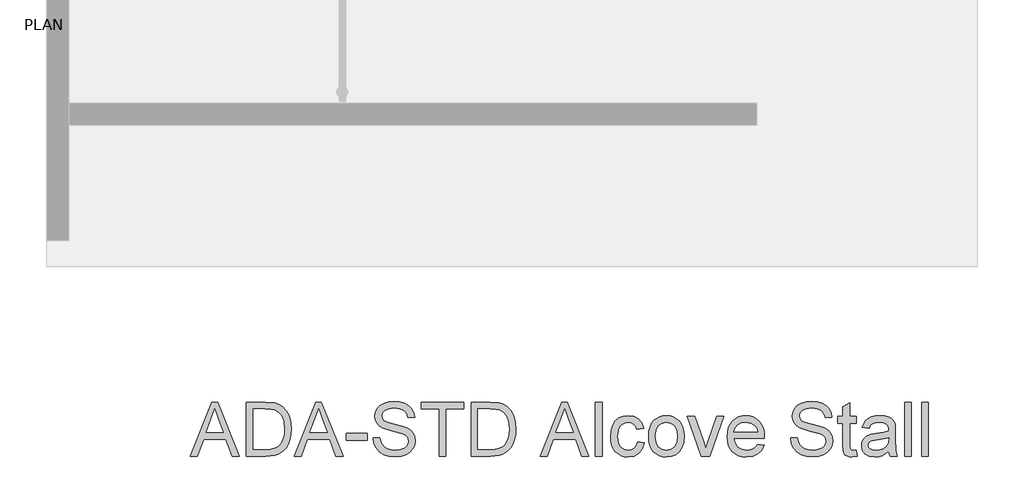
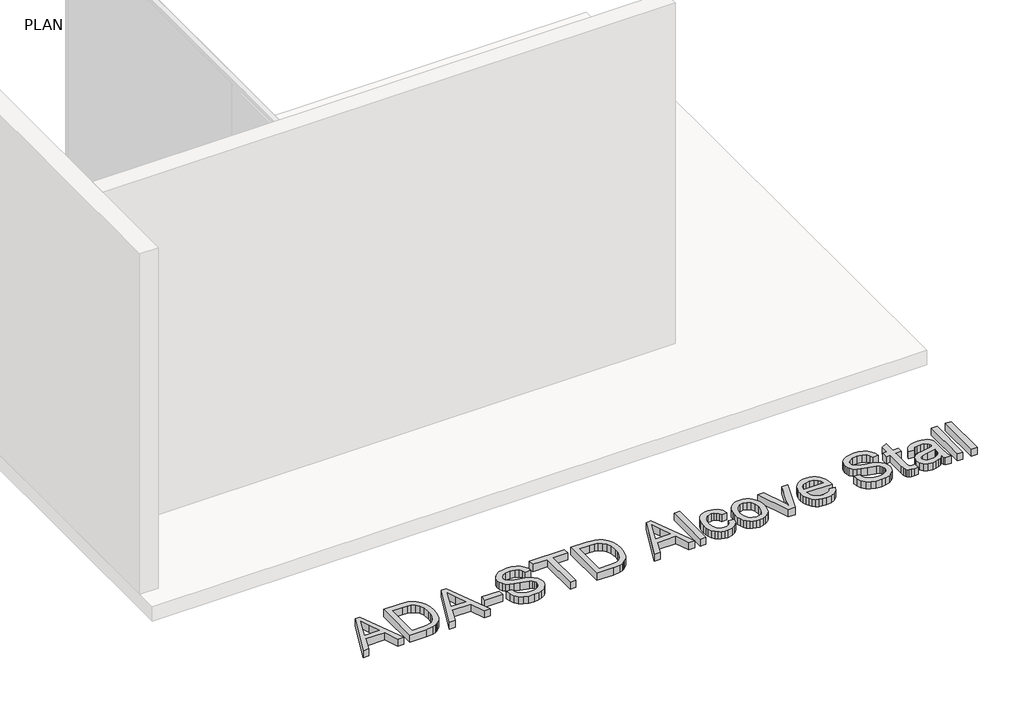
# One storey, part 17 of 21: 1 proxy.
"""IFC4 building model written with IfcOpenShell, lengths in millimetres."""

import ifcopenshell
import ifcopenshell.guid

model = None  # the IFC model being written
_history = None  # IfcOwnerHistory: only IFC2X3 demands one
_inside = {}  # id of a spatial element -> (the spatial element, [elements in it])
_under = {}  # id of a project, library or spatial element -> (it, [spatial elements below it])
_declared = {}  # id of a project -> (the project, [libraries it declares])
_typed = {}  # id of a type object -> (the type object, [elements of that type])
_made_of = {}  # id of a material, layer set ... -> (it, [elements and type objects made of it])


def new_model(schema):
    """Start an empty IFC model of exactly this schema.

    Asked for "IFC4X3", IfcOpenShell would pick the latest addendum, in which some entities
    have other attributes; the version numbers below select the first issue.
    IFC2X3 requires an IfcOwnerHistory on every rooted entity: one is made here for all.
    """
    global model, _history
    if schema == "IFC4X3":
        model = ifcopenshell.file(schema_version=(4, 3, 0, 0))
    else:
        model = ifcopenshell.file(schema=schema)
    _inside.clear()
    _under.clear()
    _declared.clear()
    _typed.clear()
    _made_of.clear()
    _history = None
    if model.schema == "IFC2X3":
        org = make("IfcOrganization", Name="unknown")
        user = make(
            "IfcPersonAndOrganization",
            ThePerson=make("IfcPerson", FamilyName="unknown"),
            TheOrganization=org,
        )
        app = make(
            "IfcApplication",
            ApplicationDeveloper=org,
            Version="unknown",
            ApplicationFullName="unknown",
            ApplicationIdentifier="unknown",
        )
        _history = make(
            "IfcOwnerHistory",
            OwningUser=user,
            OwningApplication=app,
            ChangeAction="ADDED",
            CreationDate=0,
        )
    return model


def make(cls, **values):
    """One entity of the class cls with the attributes given. An attribute that is None is left unset."""
    return model.create_entity(
        cls, **{name: value for name, value in values.items() if value is not None}
    )


def rooted(cls, **values):
    """An entity with a GlobalId (a new one), such as an element, a storey or a relation."""
    return make(cls, GlobalId=ifcopenshell.guid.new(), OwnerHistory=_history, **values)


def si_unit(unit_type, name, prefix=None):
    """IfcSIUnit, for example si_unit("LENGTHUNIT", "METRE", prefix="MILLI")."""
    return make("IfcSIUnit", UnitType=unit_type, Prefix=prefix, Name=name)


def assignment(units):
    """IfcUnitAssignment: the units of a project."""
    return None if units is None else make("IfcUnitAssignment", Units=units)


def point(xyz):
    """IfcCartesianPoint."""
    return None if xyz is None else make("IfcCartesianPoint", Coordinates=xyz)


def direction(xyz):
    """IfcDirection."""
    return None if xyz is None else make("IfcDirection", DirectionRatios=xyz)


def frame(location, z_axis=None, x_axis=None):
    """IfcAxis2Placement3D, a coordinate frame: its origin and axes. An axis left out is left unset."""
    return make(
        "IfcAxis2Placement3D",
        Location=point(location),
        Axis=direction(z_axis),
        RefDirection=direction(x_axis),
    )


def origin():
    """The frame at (0, 0, 0) with its axes left unset."""
    return frame((0.0, 0.0, 0.0))


def origin_with_axes():
    """The frame at (0, 0, 0) with the z axis (0, 0, 1) and the x axis (1, 0, 0) written out."""
    return frame((0.0, 0.0, 0.0), z_axis=(0.0, 0.0, 1.0), x_axis=(1.0, 0.0, 0.0))


def place(relative_to, where):
    """IfcLocalPlacement: puts the frame where relative to a parent placement (None: the world)."""
    return make(
        "IfcLocalPlacement", PlacementRelTo=relative_to, RelativePlacement=where
    )


def context(
    kind, dimensions, precision=None, world=None, true_north=None, identifier=None
):
    """IfcGeometricRepresentationContext, for example the 3D "Model" context."""
    return make(
        "IfcGeometricRepresentationContext",
        ContextIdentifier=identifier,
        ContextType=kind,
        CoordinateSpaceDimension=dimensions,
        Precision=precision,
        WorldCoordinateSystem=world,
        TrueNorth=true_north,
    )


def project(units=None, contexts=None):
    """IfcProject with its units and contexts."""
    return rooted(
        "IfcProject",
        Name="project",
        RepresentationContexts=contexts,
        UnitsInContext=assignment(units),
    )


def spatial(cls, under=None, at=None, **own):
    """A site, building, storey or space (cls), placed at a placement, below another one or the project."""
    s = rooted(cls, ObjectPlacement=at, **own)
    if under is not None:
        _under.setdefault(under.id(), (under, []))[1].append(s)
    return s


def polyline(points):
    """IfcPolyline through the points."""
    return make("IfcPolyline", Points=[point(p) for p in points])


def outline(outer, holes=None, kind="AREA"):
    """IfcArbitraryClosedProfileDef: a profile drawn as a closed curve; with holes, ...WithVoids."""
    if holes is None:
        return make("IfcArbitraryClosedProfileDef", ProfileType=kind, OuterCurve=outer)
    return make(
        "IfcArbitraryProfileDefWithVoids",
        ProfileType=kind,
        OuterCurve=outer,
        InnerCurves=holes,
    )


def extrude(swept, where, along, depth):
    """IfcExtrudedAreaSolid: the profile swept, set in the frame where, extruded along a direction by depth."""
    return make(
        "IfcExtrudedAreaSolid",
        SweptArea=swept,
        Position=where,
        ExtrudedDirection=direction(along),
        Depth=depth,
    )


def shape(context_of_items, identifier, shape_type, items):
    """IfcShapeRepresentation: the items that make up one representation, for example the "Body"."""
    return make(
        "IfcShapeRepresentation",
        ContextOfItems=context_of_items,
        RepresentationIdentifier=identifier,
        RepresentationType=shape_type,
        Items=items,
    )


def made_of(thing, what):
    """Note that an element or type object is made of a material, layer set ...; save() writes the relation."""
    if what is not None:
        _made_of.setdefault(what.id(), (what, []))[1].append(thing)
    return thing


def element(
    cls,
    number,
    at=None,
    inside=None,
    cuts=None,
    type_object=None,
    material=None,
    context=None,
    identifier="Body",
    shape_type=None,
    held_by="IfcProductDefinitionShape",
    body=None,
    shapes=None,
    **own,
):
    """One element of the class cls, such as IfcWall. Its Tag is "e" and its number.

    at: its placement. inside: the storey or other place that contains it. cuts: it is an
    opening in that element (IfcRelVoidsElement). A single representation is given by context,
    identifier, shape_type and body (its items); several are given by shapes. held_by: the class
    of the entity that holds the representations. save() writes the other relations.
    """
    e = rooted(cls, Tag="e%d" % number, ObjectPlacement=at, **own)
    if body is not None:
        shapes = [shape(context, identifier, shape_type, body)]
    if shapes is not None:
        e.Representation = make(held_by, Representations=shapes)
    if inside is not None:
        _inside.setdefault(inside.id(), (inside, []))[1].append(e)
    if cuts is not None:
        rooted(
            "IfcRelVoidsElement", RelatingBuildingElement=cuts, RelatedOpeningElement=e
        )
    if type_object is not None:
        _typed.setdefault(type_object.id(), (type_object, []))[1].append(e)
    return made_of(e, material)


def aggregate(whole, parts):
    """IfcRelAggregates: a whole, such as a stair, and the parts it consists of."""
    return rooted("IfcRelAggregates", RelatingObject=whole, RelatedObjects=parts)


def save(model, path):
    """Write the relations noted so far, then the file.

    IfcRelAggregates (storeys below a building ...), IfcRelContainedInSpatialStructure (elements
    in a storey), IfcRelDefinesByType, IfcRelAssociatesMaterial and IfcRelDeclares: one each for
    every whole, place, type object, material and project.
    """
    for whole, parts in _under.values():
        aggregate(whole, parts)
    for where, things in _inside.values():
        rooted(
            "IfcRelContainedInSpatialStructure",
            RelatedElements=things,
            RelatingStructure=where,
        )
    for kind, things in _typed.values():
        rooted("IfcRelDefinesByType", RelatedObjects=things, RelatingType=kind)
    for what, things in _made_of.values():
        rooted("IfcRelAssociatesMaterial", RelatedObjects=things, RelatingMaterial=what)
    for by, libraries in _declared.values():
        rooted("IfcRelDeclares", RelatingContext=by, RelatedDefinitions=libraries)
    model.write(path)


model = new_model("IFC4")

# Units and contexts
model_context = context("Model", 3, world=origin())
ifc_project = project(units=[si_unit("LENGTHUNIT", "METRE", prefix="MILLI")], contexts=[model_context])

# Site, building, storey
site = spatial("IfcSite", under=ifc_project)
building = spatial("IfcBuilding", under=site)
storey = spatial("IfcBuildingStorey", under=building, Name="PLAN", Elevation=0.0)

# Proxy
placement = place(None, origin())
element("IfcBuildingElementProxy", 1, Name="12\" Arial", ObjectType="12\" Arial", at=placement, inside=storey, context=model_context, shape_type="SweptSolid", body=[
    extrude(outline(polyline([(-22281.409143, 28816.1074995), (-22159.8351199, 29120.6745936), (-22127.4153804, 29120.6745936), (-22005.8413572, 28816.1074995), (-22046.0686028, 28816.1074995), (-22080.9421299, 28911.2847164), (-22206.3827275, 28911.2847164), (-22241.1818974, 28816.1074995), (-22281.409143, 28816.1074995)]), holes=[polyline([(-22192.4035738, 28949.3556032), (-22094.8469265, 28949.3556032), (-22122.2847335, 29024.2333043), (-22143.6252501, 29082.6037068), (-22162.5863363, 29030.7767379), (-22192.4035738, 28949.3556032)])]), origin_with_axes(), (0.0, 0.0, 1.0), 50.8),
    extrude(outline(polyline([(-21965.1679684, 28816.1074995), (-21965.1679684, 29120.6745936), (-21860.1012439, 29120.6745936), (-21805.7461301, 29116.2875187), (-21781.4685041, 29107.8293871), (-21760.9830953, 29094.5008589), (-21739.9214182, 29071.3014123), (-21724.919853, 29042.4508184), (-21715.941221, 29008.5067563), (-21712.9483437, 28970.0269049), (-21714.9745774, 28937.3376206), (-21721.0532785, 28908.5706786), (-21730.31075, 28884.0792756), (-21741.8732947, 28864.2166084), (-21755.1832337, 28848.5365337), (-21769.6828878, 28836.5929083), (-21786.3296061, 28827.7351068), (-21806.0807375, 28821.3125035), (-21855.0449542, 28816.1074995), (-21965.1679684, 28816.1074995)]), holes=[polyline([(-21927.0970817, 28854.1783863), (-21859.7294579, 28854.1783863), (-21831.8640969, 28855.5539945), (-21810.7280626, 28859.6808191), (-21794.778443, 28866.3171993), (-21782.4723263, 28875.2214741), (-21769.2460393, 28891.7008887), (-21759.3100583, 28913.0321106), (-21753.0919374, 28939.3080864), (-21751.0192304, 28970.6217626), (-21755.0809925, 29012.1130805), (-21767.2662788, 29042.7482472), (-21785.270016, 29063.791335), (-21806.787131, 29076.5064164), (-21828.6853266, 29081.0793842), (-21860.7704587, 29082.6037068), (-21927.0970817, 29082.6037068), (-21927.0970817, 28854.1783863)])]), origin_with_axes(), (0.0, 0.0, 1.0), 50.8),
    extrude(outline(polyline([(-21696.0692591, 28816.1074995), (-21574.495236, 29120.6745936), (-21542.0754965, 29120.6745936), (-21420.5014733, 28816.1074995), (-21460.7287189, 28816.1074995), (-21495.602246, 28911.2847164), (-21621.0428436, 28911.2847164), (-21655.8420135, 28816.1074995), (-21696.0692591, 28816.1074995)]), holes=[polyline([(-21607.0636899, 28949.3556032), (-21509.5070426, 28949.3556032), (-21536.9448496, 29024.2333043), (-21558.2853662, 29082.6037068), (-21577.2464524, 29030.7767379), (-21607.0636899, 28949.3556032)])]), origin_with_axes(), (0.0, 0.0, 1.0), 50.8),
    extrude(outline(polyline([(-21403.6223888, 28906.5258556), (-21403.6223888, 28944.5967423), (-21284.6508676, 28944.5967423), (-21284.6508676, 28906.5258556), (-21403.6223888, 28906.5258556)])), origin_with_axes(), (0.0, 0.0, 1.0), 50.8),
    extrude(outline(polyline([(-21251.3388417, 28920.8024381), (-21213.267955, 28920.8024381), (-21208.8994694, 28899.6756984), (-21200.9990169, 28882.6943727), (-21188.6743108, 28869.2171301), (-21171.033065, 28858.6026397), (-21149.4694768, 28851.715304), (-21125.3777437, 28849.4195254), (-21104.1673522, 28851.157625), (-21085.5966414, 28856.3719237), (-21070.5486029, 28864.625573), (-21059.9062285, 28875.4817243), (-21053.5765718, 28887.94585), (-21051.4666862, 28901.0234227), (-21053.0467768, 28913.766388), (-21057.7870483, 28924.7805483), (-21067.4163058, 28934.1774396), (-21083.6633541, 28942.0685975), (-21139.0966473, 28956.6054302), (-21175.4852024, 28966.2253931), (-21198.7683008, 28975.3806234), (-21217.7200924, 28988.1886512), (-21231.1508617, 29003.7107169), (-21239.1535555, 29021.6122129), (-21241.82112, 29041.558532), (-21238.5215193, 29063.8563976), (-21228.6227169, 29084.6485298), (-21212.3849632, 29102.2711864), (-21190.0685083, 29115.0606249), (-21163.2813268, 29122.840247), (-21133.631393, 29125.4334544), (-21101.5090823, 29122.7194166), (-21073.4020604, 29114.5773031), (-21050.3141496, 29101.1744177), (-21033.2491721, 29082.678064), (-21022.4487887, 29060.2407787), (-21018.1546603, 29035.0150984), (-21056.2255471, 29035.0150984), (-21063.215124, 29057.7312232), (-21077.7891353, 29074.1269859), (-21100.561028, 29084.0536722), (-21132.144249, 29087.3625677), (-21164.471042, 29084.0908508), (-21186.6480771, 29074.2757003), (-21199.4746942, 29059.8318141), (-21203.7502333, 29042.67389), (-21200.7201773, 29028.0441108), (-21191.6300096, 29016.2770838), (-21170.1407786, 29005.7555399), (-21129.4673898, 28995.0109244), (-21087.49275, 28984.8053986), (-21062.0997659, 28975.9011238), (-21040.396758, 28962.0892738), (-21025.255773, 28945.0428855), (-21016.3607929, 28924.947852), (-21013.3957995, 28901.9900663), (-21016.8069361, 28878.5210748), (-21027.0403458, 28856.4462809), (-21043.6777695, 28837.4480161), (-21066.3009478, 28823.2086122), (-21093.5063886, 28814.313632), (-21123.8905997, 28811.3486387), (-21161.1900305, 28814.5459983), (-21191.8902598, 28824.1380772), (-21216.3444841, 28840.1620539), (-21234.9059004, 28862.6551071), (-21246.8216418, 28890.0557356), (-21251.3388417, 28920.8024381)])), origin_with_axes(), (0.0, 0.0, 1.0), 50.8),
    extrude(outline(polyline([(-20880.1476958, 28816.1074995), (-20880.1476958, 29082.6037068), (-20980.0837736, 29082.6037068), (-20980.0837736, 29120.6745936), (-20742.1407313, 29120.6745936), (-20742.1407313, 29082.6037068), (-20842.0768091, 29082.6037068), (-20842.0768091, 28816.1074995), (-20880.1476958, 28816.1074995)])), origin_with_axes(), (0.0, 0.0, 1.0), 50.8),
    extrude(outline(polyline([(-20699.3109837, 28816.1074995), (-20699.3109837, 29120.6745936), (-20594.2442591, 29120.6745936), (-20539.8891454, 29116.2875187), (-20515.6115194, 29107.8293871), (-20495.1261106, 29094.5008589), (-20474.0644335, 29071.3014123), (-20459.0628683, 29042.4508184), (-20450.0842363, 29008.5067563), (-20447.091359, 28970.0269049), (-20449.1175927, 28937.3376206), (-20455.1962938, 28908.5706786), (-20464.4537653, 28884.0792756), (-20476.01631, 28864.2166084), (-20489.3262489, 28848.5365337), (-20503.8259031, 28836.5929083), (-20520.4726214, 28827.7351068), (-20540.2237528, 28821.3125035), (-20589.1879695, 28816.1074995), (-20699.3109837, 28816.1074995)]), holes=[polyline([(-20661.240097, 28854.1783863), (-20593.8724731, 28854.1783863), (-20566.0071122, 28855.5539945), (-20544.8710779, 28859.6808191), (-20528.9214583, 28866.3171993), (-20516.6153416, 28875.2214741), (-20503.3890545, 28891.7008887), (-20493.4530736, 28913.0321106), (-20487.2349527, 28939.3080864), (-20485.1622457, 28970.6217626), (-20489.2240078, 29012.1130805), (-20501.4092941, 29042.7482472), (-20519.4130313, 29063.791335), (-20540.9301462, 29076.5064164), (-20562.8283418, 29081.0793842), (-20594.9134739, 29082.6037068), (-20661.240097, 29082.6037068), (-20661.240097, 28854.1783863)])]), origin_with_axes(), (0.0, 0.0, 1.0), 50.8),
    extrude(outline(polyline([(-20311.2407533, 28816.1074995), (-20189.6667301, 29120.6745936), (-20157.2469906, 29120.6745936), (-20035.6729675, 28816.1074995), (-20075.9002131, 28816.1074995), (-20110.7737402, 28911.2847164), (-20236.2143378, 28911.2847164), (-20271.0135077, 28816.1074995), (-20311.2407533, 28816.1074995)]), holes=[polyline([(-20222.235184, 28949.3556032), (-20124.6785367, 28949.3556032), (-20152.1163438, 29024.2333043), (-20173.4568604, 29082.6037068), (-20192.4179466, 29030.7767379), (-20222.235184, 28949.3556032)])]), origin_with_axes(), (0.0, 0.0, 1.0), 50.8),
    extrude(outline(polyline([(-19999.7584395, 28816.1074995), (-19999.7584395, 29120.6745936), (-19961.6875528, 29120.6745936), (-19961.6875528, 28816.1074995), (-19999.7584395, 28816.1074995)])), origin_with_axes(), (0.0, 0.0, 1.0), 50.8),
    extrude(outline(polyline([(-19761.8153973, 28897.0081339), (-19723.7445105, 28892.249273), (-19734.3590009, 28858.3888627), (-19754.30532, 28832.8006911), (-19781.7059485, 28816.7116518), (-19814.683367, 28811.3486387), (-19836.0355019, 28813.219187), (-19855.1801574, 28818.830832), (-19872.1173335, 28828.1835736), (-19886.8470303, 28841.2774119), (-19898.7697427, 28857.8660387), (-19907.2859658, 28877.7031456), (-19912.3956997, 28900.7887328), (-19914.0989443, 28927.1228001), (-19911.1897189, 28961.0017997), (-19902.4620424, 28990.3635993), (-19887.7764953, 29014.0742517), (-19866.9936577, 29030.9998095), (-19842.1304687, 29041.1495674), (-19815.2038674, 29044.53282), (-19783.0350834, 29039.885495), (-19757.3167867, 29025.9435199), (-19738.8669062, 29003.4504667), (-19728.5033714, 28973.1499074), (-19766.5742581, 28968.3910465), (-19773.4801832, 28985.0005862), (-19784.2340933, 28996.907033), (-19798.241131, 29004.0732082), (-19814.9064386, 29006.4619333), (-19839.5093774, 29001.7588403), (-19859.0374372, 28987.6495615), (-19871.7804025, 28963.3719355), (-19876.0280576, 28928.163801), (-19871.873349, 28892.4816393), (-19859.4092232, 28868.1203614), (-19840.2343601, 28854.0947344), (-19815.9474394, 28849.4195254), (-19796.2334866, 28852.3380455), (-19780.0700901, 28861.0936059), (-19768.3123577, 28875.9092782), (-19761.8153973, 28897.0081339)])), origin_with_axes(), (0.0, 0.0, 1.0), 50.8),
    extrude(outline(polyline([(-19699.9502063, 28927.9407294), (-19697.8914413, 28956.9075063), (-19691.7151463, 28981.8682892), (-19681.4213214, 29002.8230778), (-19667.0099664, 29019.7718722), (-19652.5010176, 29030.6047869), (-19636.4863355, 29038.3425831), (-19618.9659201, 29042.9852608), (-19599.9397714, 29044.53282), (-19578.9361858, 29042.6483297), (-19559.944892, 29036.9948588), (-19542.96589, 29027.5724073), (-19527.9991797, 29014.3809752), (-19515.7836858, 28997.8667056), (-19507.058333, 28978.4757419), (-19501.8231214, 28956.2080839), (-19500.0780508, 28931.0637318), (-19503.1638747, 28892.6024697), (-19512.4213461, 28863.3243219), (-19527.5809204, 28841.3982424), (-19548.3730527, 28824.993185), (-19573.068938, 28814.7597752), (-19599.9397714, 28811.3486387), (-19621.2500804, 28813.226158), (-19640.4179725, 28818.8587159), (-19657.4434478, 28828.2463125), (-19672.3265063, 28841.3889477), (-19684.411875, 28858.06355), (-19693.0442813, 28878.0470477), (-19698.2237251, 28901.3394408), (-19699.9502063, 28927.9407294)]), holes=[polyline([(-19661.8793196, 28928.0150866), (-19657.4736554, 28893.5598187), (-19644.256663, 28869.0126478), (-19624.3661118, 28854.317806), (-19599.9397714, 28849.4195254), (-19575.6249667, 28854.34569), (-19555.7715942, 28869.1241836), (-19542.5546017, 28893.9966672), (-19538.1489376, 28929.2048018), (-19542.5824857, 28962.6562474), (-19555.88313, 28986.8688109), (-19575.7643865, 29001.5636527), (-19599.9397714, 29006.4619333), (-19624.3661118, 29001.582242), (-19644.256663, 28986.9431681), (-19657.4736554, 28962.4517651), (-19661.8793196, 28928.0150866)])]), origin_with_axes(), (0.0, 0.0, 1.0), 50.8),
    extrude(outline(polyline([(-19402.3726891, 28816.1074995), (-19481.0426075, 29039.7739592), (-19440.7410047, 29039.7739592), (-19393.078039, 28905.7822835), (-19378.7270993, 28860.7218199), (-19364.6735884, 28903.2541387), (-19316.7131939, 29039.7739592), (-19276.4115911, 29039.7739592), (-19354.1148659, 28816.1074995), (-19402.3726891, 28816.1074995)])), origin_with_axes(), (0.0, 0.0, 1.0), 50.8),
    extrude(outline(polyline([(-19086.5033005, 28882.7315513), (-19049.1759858, 28877.9726905), (-19062.6253445, 28849.8470793), (-19084.0866915, 28828.8225808), (-19113.0767051, 28815.7171242), (-19149.1120635, 28811.3486387), (-19172.7344167, 28813.233129), (-19193.7821518, 28818.8865999), (-19212.2552689, 28828.3090514), (-19228.1537679, 28841.5004835), (-19240.9385591, 28858.0937576), (-19250.0705528, 28877.7217349), (-19255.549749, 28900.3844155), (-19257.3761477, 28926.0817993), (-19255.5311597, 28952.6505566), (-19249.9961956, 28976.0684275), (-19240.7712554, 28996.335412), (-19227.8563391, 29013.4515102), (-19211.999666, 29027.0495832), (-19193.9494555, 29036.7624926), (-19173.7057077, 29042.5902382), (-19151.2684223, 29044.53282), (-19129.5537961, 29042.5948855), (-19109.9165241, 29036.7810819), (-19092.3566064, 29027.0914092), (-19076.874043, 29013.5258674), (-19064.2356426, 28996.4469478), (-19055.2082137, 28976.2171419), (-19049.7917564, 28952.8364496), (-19047.9862706, 28926.3048709), (-19048.2093422, 28916.0435772), (-19219.305261, 28916.0435772), (-19212.7153541, 28887.5461801), (-19197.4070654, 28866.5960388), (-19175.3136821, 28853.7136538), (-19148.3684915, 28849.4195254), (-19128.1061543, 28851.4085805), (-19111.0411768, 28857.3757459), (-19097.1735588, 28867.6928075), (-19086.5033005, 28882.7315513)]), holes=[polyline([(-19219.305261, 28954.114464), (-19086.0571573, 28954.114464), (-19091.2063935, 28974.2280868), (-19101.3003835, 28988.6162051), (-19123.4960079, 29002.0005012), (-19151.4171367, 29006.4619333), (-19177.0796656, 29002.9020823), (-19198.2993518, 28992.2225294), (-19213.0499615, 28975.5758111), (-19219.305261, 28954.114464)])]), origin_with_axes(), (0.0, 0.0, 1.0), 50.8),
    extrude(outline(polyline([(-18900.4615844, 28920.8024381), (-18862.3906976, 28920.8024381), (-18858.0222121, 28899.6756984), (-18850.1217595, 28882.6943727), (-18837.7970535, 28869.2171301), (-18820.1558076, 28858.6026397), (-18798.5922194, 28851.715304), (-18774.5004864, 28849.4195254), (-18753.2900949, 28851.157625), (-18734.719384, 28856.3719237), (-18719.6713455, 28864.625573), (-18709.0289712, 28875.4817243), (-18702.6993145, 28887.94585), (-18700.5894289, 28901.0234227), (-18702.1695194, 28913.766388), (-18706.909791, 28924.7805483), (-18716.5390485, 28934.1774396), (-18732.7860968, 28942.0685975), (-18788.2193899, 28956.6054302), (-18824.607945, 28966.2253931), (-18847.8910435, 28975.3806234), (-18866.842835, 28988.1886512), (-18880.2736044, 29003.7107169), (-18888.2762981, 29021.6122129), (-18890.9438627, 29041.558532), (-18887.6442619, 29063.8563976), (-18877.7454596, 29084.6485298), (-18861.5077059, 29102.2711864), (-18839.191251, 29115.0606249), (-18812.4040695, 29122.840247), (-18782.7541357, 29125.4334544), (-18750.631825, 29122.7194166), (-18722.5248031, 29114.5773031), (-18699.4368923, 29101.1744177), (-18682.3719147, 29082.678064), (-18671.5715313, 29060.2407787), (-18667.277403, 29035.0150984), (-18705.3482897, 29035.0150984), (-18712.3378666, 29057.7312232), (-18726.911878, 29074.1269859), (-18749.6837707, 29084.0536722), (-18781.2669917, 29087.3625677), (-18813.5937847, 29084.0908508), (-18835.7708198, 29074.2757003), (-18848.5974369, 29059.8318141), (-18852.8729759, 29042.67389), (-18849.84292, 29028.0441108), (-18840.7527522, 29016.2770838), (-18819.2635212, 29005.7555399), (-18778.5901324, 28995.0109244), (-18736.6154926, 28984.8053986), (-18711.2225086, 28975.9011238), (-18689.5195006, 28962.0892738), (-18674.3785157, 28945.0428855), (-18665.4835355, 28924.947852), (-18662.5185421, 28901.9900663), (-18665.9296787, 28878.5210748), (-18676.1630885, 28856.4462809), (-18692.8005121, 28837.4480161), (-18715.4236904, 28823.2086122), (-18742.6291312, 28814.313632), (-18773.0133424, 28811.3486387), (-18810.3127732, 28814.5459983), (-18841.0130024, 28824.1380772), (-18865.4672268, 28840.1620539), (-18884.028643, 28862.6551071), (-18895.9443844, 28890.0557356), (-18900.4615844, 28920.8024381)])), origin_with_axes(), (0.0, 0.0, 1.0), 50.8),
    extrude(outline(polyline([(-18529.2704385, 28847.8580242), (-18524.5115776, 28814.9921415), (-18552.9903855, 28811.3486387), (-18571.2636676, 28812.9287292), (-18584.8896246, 28817.6690007), (-18594.5188821, 28824.9745957), (-18600.8020656, 28834.2506565), (-18604.2596754, 28850.1816867), (-18605.412212, 28877.4521901), (-18605.412212, 29001.7030724), (-18633.9653771, 29001.7030724), (-18633.9653771, 29039.7739592), (-18605.412212, 29039.7739592), (-18605.412212, 29094.1290729), (-18567.3413252, 29116.5105903), (-18567.3413252, 29039.7739592), (-18529.2704385, 29039.7739592), (-18529.2704385, 29001.7030724), (-18567.3413252, 29001.7030724), (-18567.3413252, 28878.5675481), (-18565.3336808, 28858.9372471), (-18558.8274258, 28851.9848488), (-18545.8520942, 28849.4195254), (-18529.2704385, 28847.8580242)])), origin_with_axes(), (0.0, 0.0, 1.0), 50.8),
    extrude(outline(polyline([(-18348.4337264, 28844.6606646), (-18366.6233566, 28829.0642417), (-18385.3520765, 28818.8587159), (-18405.0474401, 28813.226158), (-18426.1370011, 28811.3486387), (-18457.9525884, 28815.8658386), (-18481.4215798, 28829.4174384), (-18495.89335, 28849.9957937), (-18500.7172734, 28875.5932601), (-18498.895522, 28891.3755759), (-18493.4302678, 28905.7079263), (-18485.0000201, 28917.9768645), (-18474.2832886, 28927.5689433), (-18447.6262321, 28940.0609531), (-18414.6859922, 28945.7864575), (-18375.7599976, 28951.8093908), (-18348.656798, 28958.8733248), (-18348.4337264, 28967.3500457), (-18351.0548177, 28984.3406661), (-18358.9180917, 28995.4570676), (-18376.5035697, 29003.7107169), (-18401.0042673, 29006.4619333), (-18423.6832135, 29004.6308872), (-18439.5212972, 28999.137749), (-18450.3216806, 28988.9786965), (-18457.8875258, 28973.1499074), (-18495.9584126, 28977.9087682), (-18489.3499164, 28998.7287844), (-18479.4882926, 29015.0873686), (-18465.453371, 29027.5979676), (-18446.3249811, 29036.8740284), (-18422.9303468, 29042.6181221), (-18396.096692, 29044.53282), (-18370.3598059, 29042.8411937), (-18349.958049, 29037.7663148), (-18334.5754031, 29030.1354071), (-18323.8958502, 29020.7756944), (-18316.8133268, 29009.2038551), (-18312.2217696, 28994.9365672), (-18310.3628396, 28961.6245413), (-18310.3628396, 28914.2590044), (-18308.4295524, 28848.1182744), (-18300.8451179, 28816.1074995), (-18338.9160047, 28816.1074995), (-18345.0132952, 28829.3430812), (-18348.4337264, 28844.6606646)]), holes=[polyline([(-18348.4337264, 28920.8024381), (-18409.8527742, 28909.1283576), (-18442.6071211, 28902.9567099), (-18457.4413826, 28892.9184878), (-18462.6463867, 28878.2701193), (-18459.8115184, 28866.9492355), (-18451.3069136, 28857.6731747), (-18437.3184652, 28851.4829377), (-18418.0320662, 28849.4195254), (-18397.583836, 28851.6967147), (-18379.5150363, 28858.5282825), (-18364.8666677, 28868.5943885), (-18354.6797312, 28880.5751925), (-18350.1625313, 28892.9184878), (-18348.656798, 28910.020644), (-18348.4337264, 28920.8024381)])]), origin_with_axes(), (0.0, 0.0, 1.0), 50.8),
    extrude(outline(polyline([(-18258.0153703, 28816.1074995), (-18258.0153703, 29120.6745936), (-18219.9444836, 29120.6745936), (-18219.9444836, 28816.1074995), (-18258.0153703, 28816.1074995)])), origin_with_axes(), (0.0, 0.0, 1.0), 50.8),
    extrude(outline(polyline([(-18162.8381534, 28816.1074995), (-18162.8381534, 29120.6745936), (-18124.7672667, 29120.6745936), (-18124.7672667, 28816.1074995), (-18162.8381534, 28816.1074995)])), origin_with_axes(), (0.0, 0.0, 1.0), 50.8),
])

save(model, "model.ifc")
